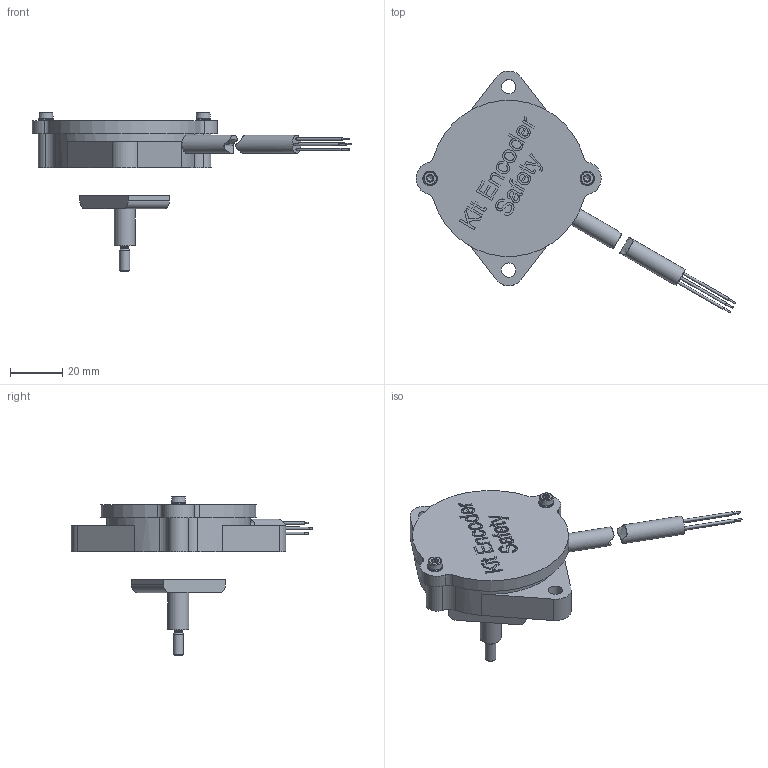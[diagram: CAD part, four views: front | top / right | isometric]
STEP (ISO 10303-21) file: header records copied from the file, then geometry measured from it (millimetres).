
FILE_DESCRIPTION(/* description */ ('Unknown'),/* implementation_level */ '2;1');
FILE_NAME(/* name */ '16942ab0',/* time_stamp */ '2024-04-19T11:43:49+02:00',/* author */ ('Unknown'),/* organization */ ('Unknown'),/* preprocessor_version */ 'ST-DEVELOPER v18.102',/* originating_system */ 'Solid Edge',/* authorisation */ 'Unknown');
FILE_SCHEMA (('AUTOMOTIVE_DESIGN {1 0 10303 214 3 1 1}'));
Length unit declared in the file: millimetre
Products named in the file (1): Part26
Bounding box: 121.98 x 92.31 x 60.98 mm (x, y, z)
Volume: 56451 mm3; surface area: 16394 mm2
Topology: 3 solids, 3 shells, 634 faces, 1704 edges, 1143 vertices
Faces by surface type: plane 308, cylinder 251, bspline 39, cone 30, torus 6
Full cylindrical faces by diameter (mm): 0.6 x4, 1 x4, 2.693 x2, 3 x3, 3.2 x2, 3.55 x2, 3.91 x2, 4 x3, 4.5 x2, 5.5 x4, 6.999 x1, 7 x1, 7.999 x1
Entity records: 30606 total; most frequent: CARTESIAN_POINT 12299, ORIENTED_EDGE 3272, DIRECTION 2121, EDGE_CURVE 1636, VERTEX_POINT 1133, B_SPLINE_CURVE_WITH_KNOTS 885, AXIS2_PLACEMENT_3D 774, FACE_BOUND 763
